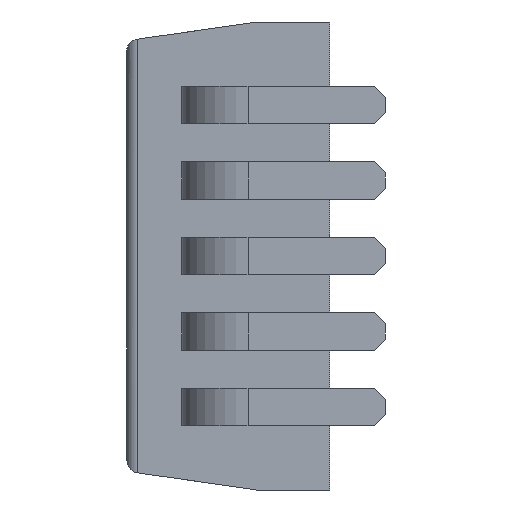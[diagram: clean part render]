
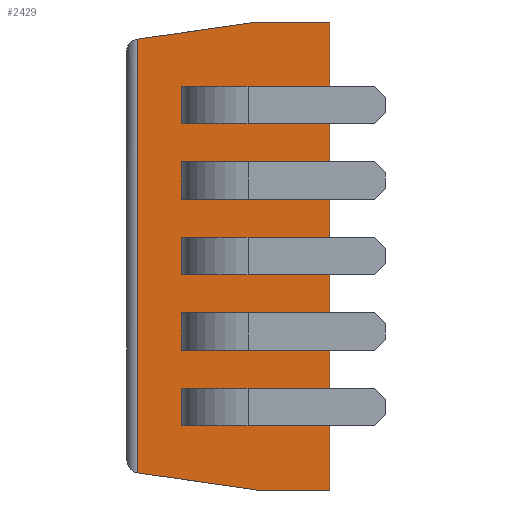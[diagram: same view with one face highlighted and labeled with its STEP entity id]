
A CAD part, left-side view. The second image highlights one B-rep face of the part: STEP entity #2429.
In plain terms, the highlighted planar face has unit normal (-1, 0, 0).
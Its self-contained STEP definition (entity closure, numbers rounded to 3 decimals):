
#2352 = CARTESIAN_POINT ( 'NONE',  ( -4.113, 1.65, -5.27 ) ) ;
#2353 = VERTEX_POINT ( 'NONE', #2352 ) ;
#2354 = CARTESIAN_POINT ( 'NONE',  ( -4.113, 0., -5.27 ) ) ;
#2355 = VERTEX_POINT ( 'NONE', #2354 ) ;
#2356 = CARTESIAN_POINT ( 'NONE',  ( -4.113, 4.57, -5.27 ) ) ;
#2357 = DIRECTION ( 'NONE',  ( 0., -1., 0. ) ) ;
#2358 = VECTOR ( 'NONE', #2357, 1000. ) ;
#2359 = LINE ( 'NONE', #2356, #2358 ) ;
#2360 = EDGE_CURVE ( 'NONE', #2353, #2355, #2359, .T. ) ;
#2383 = CARTESIAN_POINT ( 'NONE',  ( -4.113, 1.65, 5.27 ) ) ;
#2384 = VERTEX_POINT ( 'NONE', #2383 ) ;
#2385 = CARTESIAN_POINT ( 'NONE',  ( -4.113, 4.32, 4.884 ) ) ;
#2386 = VERTEX_POINT ( 'NONE', #2385 ) ;
#2387 = CARTESIAN_POINT ( 'NONE',  ( -4.113, 4.57, 4.848 ) ) ;
#2388 = DIRECTION ( 'NONE',  ( 0., 0.99, -0.139 ) ) ;
#2389 = VECTOR ( 'NONE', #2388, 1000. ) ;
#2390 = LINE ( 'NONE', #2387, #2389 ) ;
#2391 = EDGE_CURVE ( 'NONE', #2384, #2386, #2390, .T. ) ;
#2392 = ORIENTED_EDGE ( 'NONE', *, *, #2391, .T. ) ;
#2393 = CARTESIAN_POINT ( 'NONE',  ( -4.113, 4.32, -4.884 ) ) ;
#2394 = VERTEX_POINT ( 'NONE', #2393 ) ;
#2395 = CARTESIAN_POINT ( 'NONE',  ( -4.113, 4.32, -4.848 ) ) ;
#2396 = DIRECTION ( 'NONE',  ( 0., 0., -1. ) ) ;
#2397 = VECTOR ( 'NONE', #2396, 1000. ) ;
#2398 = LINE ( 'NONE', #2395, #2397 ) ;
#2399 = EDGE_CURVE ( 'NONE', #2386, #2394, #2398, .T. ) ;
#2400 = ORIENTED_EDGE ( 'NONE', *, *, #2399, .T. ) ;
#2401 = CARTESIAN_POINT ( 'NONE',  ( -4.113, 4.57, -4.848 ) ) ;
#2402 = DIRECTION ( 'NONE',  ( 0., -0.99, -0.139 ) ) ;
#2403 = VECTOR ( 'NONE', #2402, 1000. ) ;
#2404 = LINE ( 'NONE', #2401, #2403 ) ;
#2405 = EDGE_CURVE ( 'NONE', #2394, #2353, #2404, .T. ) ;
#2406 = ORIENTED_EDGE ( 'NONE', *, *, #2405, .T. ) ;
#2407 = ORIENTED_EDGE ( 'NONE', *, *, #2360, .T. ) ;
#2408 = CARTESIAN_POINT ( 'NONE',  ( -4.113, 0., 5.27 ) ) ;
#2409 = VERTEX_POINT ( 'NONE', #2408 ) ;
#2410 = CARTESIAN_POINT ( 'NONE',  ( -4.113, 0., -5.27 ) ) ;
#2411 = DIRECTION ( 'NONE',  ( 0., 0., 1. ) ) ;
#2412 = VECTOR ( 'NONE', #2411, 1000. ) ;
#2413 = LINE ( 'NONE', #2410, #2412 ) ;
#2414 = EDGE_CURVE ( 'NONE', #2355, #2409, #2413, .T. ) ;
#2415 = ORIENTED_EDGE ( 'NONE', *, *, #2414, .T. ) ;
#2416 = CARTESIAN_POINT ( 'NONE',  ( -4.113, 4.57, 5.27 ) ) ;
#2417 = DIRECTION ( 'NONE',  ( 0., -1., 0. ) ) ;
#2418 = VECTOR ( 'NONE', #2417, 1000. ) ;
#2419 = LINE ( 'NONE', #2416, #2418 ) ;
#2420 = EDGE_CURVE ( 'NONE', #2384, #2409, #2419, .T. ) ;
#2421 = ORIENTED_EDGE ( 'NONE', *, *, #2420, .F. ) ;
#2422 = EDGE_LOOP ( 'NONE', ( #2392, #2400, #2406, #2407, #2415, #2421 ) ) ;
#2423 = FACE_OUTER_BOUND ( 'NONE', #2422, .T. ) ;
#2424 = CARTESIAN_POINT ( 'NONE',  ( -4.113, 4.57, -5.27 ) ) ;
#2425 = DIRECTION ( 'NONE',  ( 1., 0., 0. ) ) ;
#2426 = DIRECTION ( 'NONE',  ( 0., 0., -1. ) ) ;
#2427 = AXIS2_PLACEMENT_3D ( 'NONE', #2424, #2425, #2426 ) ;
#2428 = PLANE ( 'NONE', #2427 ) ;
#2429 = ADVANCED_FACE ( 'NONE', ( #2423 ), #2428, .F. ) ;
